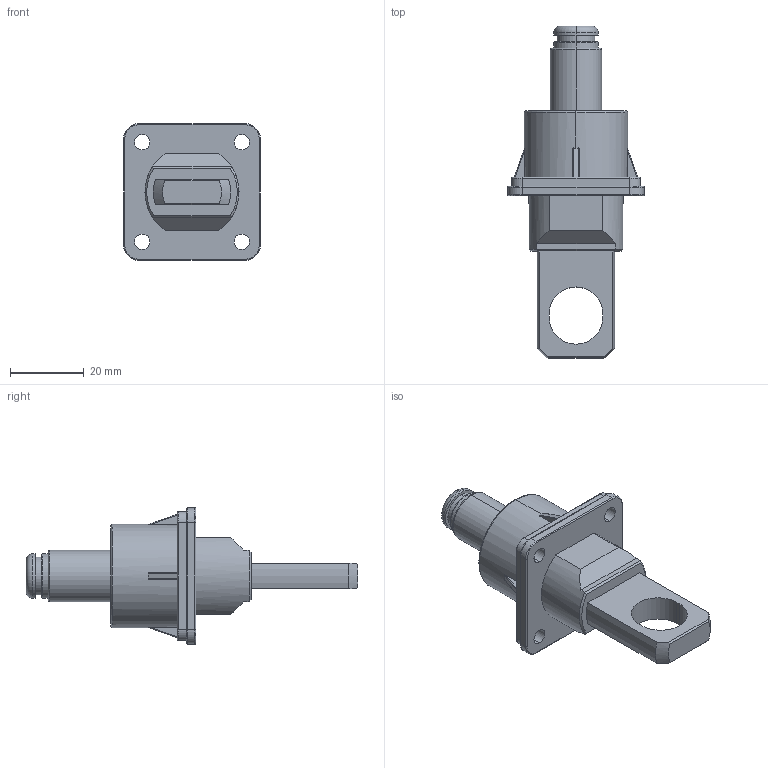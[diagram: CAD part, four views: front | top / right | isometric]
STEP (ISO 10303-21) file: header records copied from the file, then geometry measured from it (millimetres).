
FILE_DESCRIPTION (( 'STEP AP203' ), '1' );
FILE_NAME ('14.0 Feed Thru Pin to Lug.STEP', '2015-03-11T13:09:29', ( 'gasf' ), ( '' ), 'SwSTEP 2.0', 'SolidWorks 2012', '' );
FILE_SCHEMA (( 'CONFIG_CONTROL_DESIGN' ));
Length unit declared in the file: millimetre
Products named in the file (1): 14.0 Feed Thru Pin to Lug
Bounding box: 37 x 90 x 37 mm (x, y, z)
Volume: 24010.8 mm3; surface area: 11261 mm2
Topology: 1 solids, 1 shells, 279 faces, 682 edges, 400 vertices
Faces by surface type: cylinder 122, plane 79, torus 44, sphere 30, cone 4
Entity records: 8129 total; most frequent: CARTESIAN_POINT 1564, DIRECTION 1468, ORIENTED_EDGE 1308, EDGE_CURVE 654, AXIS2_PLACEMENT_3D 588, VERTEX_POINT 388, CIRCLE 308, EDGE_LOOP 300
